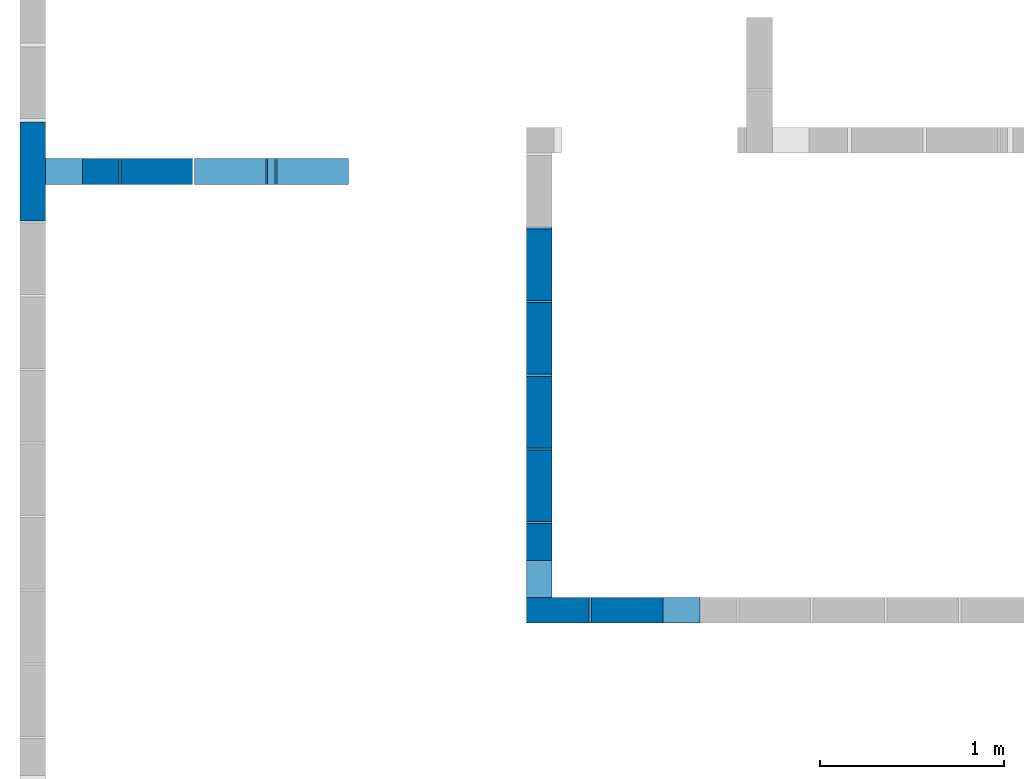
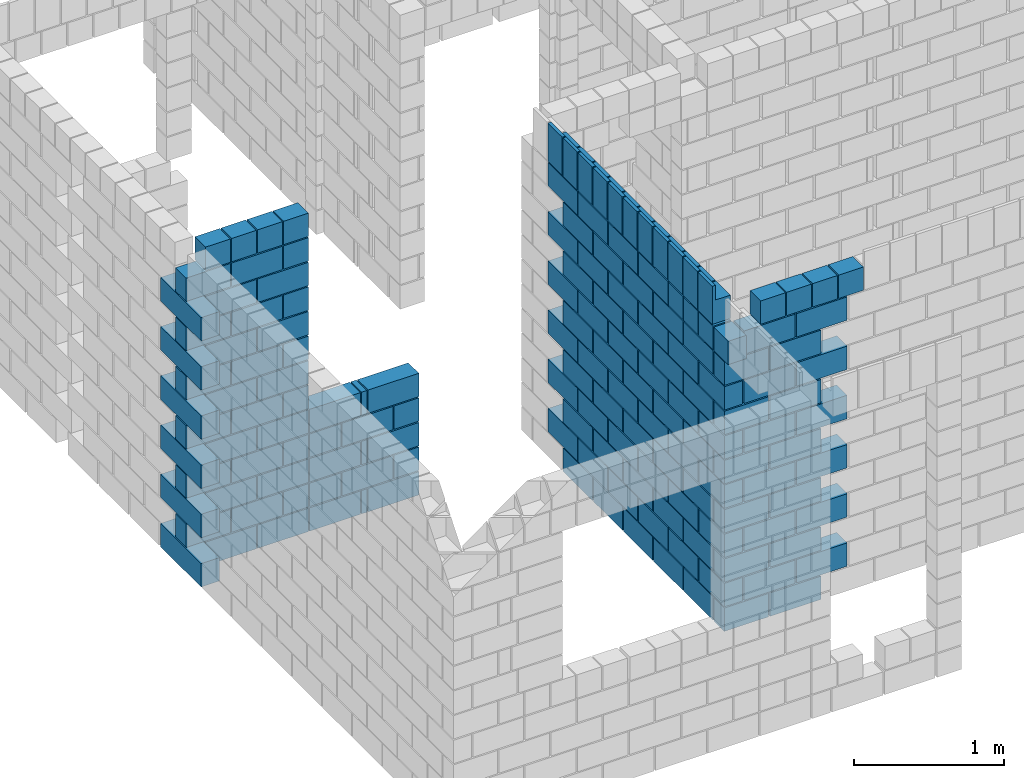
# One storey, part 3 of 12: 8 walls.
"""IFC4 building model written with IfcOpenShell, lengths in centimetres."""

from ifc_helpers import new_model, si_unit, derived_unit, frame, origin, origin_with_axes, origin_2d_with_axis, place, context, project, spatial, rectangle, extrude, element, save


model = new_model("IFC4")

# Units and contexts
model_context = context("Model", 3, precision=1e-05, world=origin_with_axes(), identifier="Body")
ifc_project = project(units=[si_unit("LENGTHUNIT", "METRE", prefix="CENTI"), si_unit("VOLUMEUNIT", "CUBIC_METRE"), si_unit("AREAUNIT", "SQUARE_METRE"), si_unit("POWERUNIT", "WATT"), si_unit("LUMINOUSFLUXUNIT", "LUMEN"), si_unit("ELECTRICCURRENTUNIT", "AMPERE"), si_unit("PRESSUREUNIT", "PASCAL", prefix="KILO"), si_unit("MASSUNIT", "GRAM", prefix="KILO"), si_unit("PLANEANGLEUNIT", "RADIAN"), derived_unit("VOLUMETRICFLOWRATEUNIT", [(si_unit("LENGTHUNIT", "METRE"), 3), (si_unit("TIMEUNIT", "SECOND"), -1)])], contexts=[model_context])

# Site, building, storey
site_placement = place(None, origin_with_axes())
site = spatial("IfcSite", under=ifc_project, at=site_placement)
building_placement = place(site_placement, origin())
building = spatial("IfcBuilding", under=site, at=building_placement)
storey_placement = place(building_placement, origin_with_axes())
storey = spatial("IfcBuildingStorey", under=building, at=storey_placement, Name="PISO", CompositionType="ELEMENT", Elevation=0.0)

# Walls
wall_1_placement = place(storey_placement, frame((18.0, 364.01, 239.0), z_axis=(0.0, 0.0, 1.0), x_axis=(1.0, 0.0, 0.0)))
element("IfcWall", 1, at=wall_1_placement, inside=storey, context=model_context, shape_type="SolidModel", body=[
    extrude(rectangle(XDim=54.0, YDim=14.0, at=origin_2d_with_axis()), frame((-10.0, 0.0, -239.0), z_axis=(0.0, 0.0, 1.0), x_axis=(0.0, 1.0, 0.0)), (0.0, 0.0, 1.0), 19.0),
    extrude(rectangle(XDim=34.0, YDim=14.0, at=origin_2d_with_axis()), frame((0.0, 0.0, -219.0), z_axis=(0.0, 0.0, 1.0), x_axis=(1.0, 0.0, 0.0)), (0.0, 0.0, 1.0), 19.0),
    extrude(rectangle(XDim=54.0, YDim=14.0, at=origin_2d_with_axis()), frame((-10.0, 0.0, -199.0), z_axis=(0.0, 0.0, 1.0), x_axis=(0.0, 1.0, 0.0)), (0.0, 0.0, 1.0), 19.0),
    extrude(rectangle(XDim=34.0, YDim=14.0, at=origin_2d_with_axis()), frame((0.0, 0.0, -179.0), z_axis=(0.0, 0.0, 1.0), x_axis=(1.0, 0.0, 0.0)), (0.0, 0.0, 1.0), 19.0),
    extrude(rectangle(XDim=54.0, YDim=14.0, at=origin_2d_with_axis()), frame((-10.0, 0.0, -159.0), z_axis=(0.0, 0.0, 1.0), x_axis=(0.0, 1.0, 0.0)), (0.0, 0.0, 1.0), 19.0),
    extrude(rectangle(XDim=34.0, YDim=14.0, at=origin_2d_with_axis()), frame((0.0, 0.0, -139.0), z_axis=(0.0, 0.0, 1.0), x_axis=(1.0, 0.0, 0.0)), (0.0, 0.0, 1.0), 19.0),
    extrude(rectangle(XDim=54.0, YDim=14.0, at=origin_2d_with_axis()), frame((-10.0, 0.0, -119.0), z_axis=(0.0, 0.0, 1.0), x_axis=(0.0, 1.0, 0.0)), (0.0, 0.0, 1.0), 19.0),
    extrude(rectangle(XDim=34.0, YDim=14.0, at=origin_2d_with_axis()), frame((0.0, 0.0, -99.0), z_axis=(0.0, 0.0, 1.0), x_axis=(1.0, 0.0, 0.0)), (0.0, 0.0, 1.0), 19.0),
    extrude(rectangle(XDim=54.0, YDim=14.0, at=origin_2d_with_axis()), frame((-10.0, 0.0, -79.0), z_axis=(0.0, 0.0, 1.0), x_axis=(0.0, 1.0, 0.0)), (0.0, 0.0, 1.0), 19.0),
    extrude(rectangle(XDim=34.0, YDim=14.0, at=origin_2d_with_axis()), frame((0.0, 0.0, -59.0), z_axis=(0.0, 0.0, 1.0), x_axis=(1.0, 0.0, 0.0)), (0.0, 0.0, 1.0), 19.0),
    extrude(rectangle(XDim=54.0, YDim=14.0, at=origin_2d_with_axis()), frame((-10.0, 0.0, -39.0), z_axis=(0.0, 0.0, 1.0), x_axis=(0.0, 1.0, 0.0)), (0.0, 0.0, 1.0), 19.0),
    extrude(rectangle(XDim=34.0, YDim=14.0, at=origin_2d_with_axis()), frame((0.0, 0.0, -19.0), z_axis=(0.0, 0.0, 1.0), x_axis=(1.0, 0.0, 0.0)), (0.0, 0.0, 1.0), 19.0),
])
wall_2_placement = place(storey_placement, frame((75.5, 364.01, 239.0), z_axis=(0.0, 0.0, 1.0), x_axis=(1.0, 0.0, 0.0)))
element("IfcWall", 2, at=wall_2_placement, inside=storey, context=model_context, shape_type="SolidModel", body=[
    extrude(rectangle(XDim=39.0, YDim=14.0, at=origin_2d_with_axis()), frame((0.0, 0.0, -239.0), z_axis=(0.0, 0.0, 1.0), x_axis=(-1.0, 0.0, 0.0)), (0.0, 0.0, 1.0), 19.0),
    extrude(rectangle(XDim=19.0, YDim=14.0, at=origin_2d_with_axis()), frame((10.0, 0.0, -219.0), z_axis=(0.0, 0.0, 1.0), x_axis=(-1.0, 0.0, 0.0)), (0.0, 0.0, 1.0), 19.0),
    extrude(rectangle(XDim=39.0, YDim=14.0, at=origin_2d_with_axis()), frame((0.0, 0.0, -199.0), z_axis=(0.0, 0.0, 1.0), x_axis=(-1.0, 0.0, 0.0)), (0.0, 0.0, 1.0), 19.0),
    extrude(rectangle(XDim=19.0, YDim=14.0, at=origin_2d_with_axis()), frame((10.0, 0.0, -179.0), z_axis=(0.0, 0.0, 1.0), x_axis=(-1.0, 0.0, 0.0)), (0.0, 0.0, 1.0), 19.0),
    extrude(rectangle(XDim=39.0, YDim=14.0, at=origin_2d_with_axis()), frame((0.0, 0.0, -159.0), z_axis=(0.0, 0.0, 1.0), x_axis=(-1.0, 0.0, 0.0)), (0.0, 0.0, 1.0), 19.0),
    extrude(rectangle(XDim=19.0, YDim=14.0, at=origin_2d_with_axis()), frame((10.0, 0.0, -139.0), z_axis=(0.0, 0.0, 1.0), x_axis=(-1.0, 0.0, 0.0)), (0.0, 0.0, 1.0), 19.0),
    extrude(rectangle(XDim=39.0, YDim=14.0, at=origin_2d_with_axis()), frame((0.0, 0.0, -119.0), z_axis=(0.0, 0.0, 1.0), x_axis=(-1.0, 0.0, 0.0)), (0.0, 0.0, 1.0), 19.0),
    extrude(rectangle(XDim=19.0, YDim=14.0, at=origin_2d_with_axis()), frame((10.0, 0.0, -99.0), z_axis=(0.0, 0.0, 1.0), x_axis=(-1.0, 0.0, 0.0)), (0.0, 0.0, 1.0), 19.0),
    extrude(rectangle(XDim=39.0, YDim=14.0, at=origin_2d_with_axis()), frame((0.0, 0.0, -79.0), z_axis=(0.0, 0.0, 1.0), x_axis=(-1.0, 0.0, 0.0)), (0.0, 0.0, 1.0), 19.0),
    extrude(rectangle(XDim=19.0, YDim=14.0, at=origin_2d_with_axis()), frame((10.0, 0.0, -59.0), z_axis=(0.0, 0.0, 1.0), x_axis=(-1.0, 0.0, 0.0)), (0.0, 0.0, 1.0), 19.0),
    extrude(rectangle(XDim=39.0, YDim=14.0, at=origin_2d_with_axis()), frame((0.0, 0.0, -39.0), z_axis=(0.0, 0.0, 1.0), x_axis=(-1.0, 0.0, 0.0)), (0.0, 0.0, 1.0), 19.0),
    extrude(rectangle(XDim=19.0, YDim=14.0, at=origin_2d_with_axis()), frame((10.0, 0.0, -19.0), z_axis=(0.0, 0.0, 1.0), x_axis=(-1.0, 0.0, 0.0)), (0.0, 0.0, 1.0), 19.0),
])
wall_3_placement = place(storey_placement, frame((294.0, 132.5, 239.0), z_axis=(0.0, 0.0, 1.0), x_axis=(1.0, 0.0, 0.0)))
element("IfcWall", 3, at=wall_3_placement, inside=storey, context=model_context, shape_type="SolidModel", body=[
    extrude(rectangle(XDim=34.0, YDim=14.0, at=origin_2d_with_axis()), frame((0.0, -7.5, -239.0), z_axis=(0.0, 0.0, 1.0), x_axis=(1.0, 0.0, 0.0)), (0.0, 0.0, 1.0), 19.0),
    extrude(rectangle(XDim=34.0, YDim=14.0, at=origin_2d_with_axis()), frame((-10.0, 2.5, -219.0), z_axis=(0.0, 0.0, 1.0), x_axis=(0.0, 1.0, 0.0)), (0.0, 0.0, 1.0), 19.0),
    extrude(rectangle(XDim=34.0, YDim=14.0, at=origin_2d_with_axis()), frame((0.0, -7.5, -199.0), z_axis=(0.0, 0.0, 1.0), x_axis=(1.0, 0.0, 0.0)), (0.0, 0.0, 1.0), 19.0),
    extrude(rectangle(XDim=34.0, YDim=14.0, at=origin_2d_with_axis()), frame((-10.0, 2.5, -179.0), z_axis=(0.0, 0.0, 1.0), x_axis=(0.0, 1.0, 0.0)), (0.0, 0.0, 1.0), 19.0),
    extrude(rectangle(XDim=34.0, YDim=14.0, at=origin_2d_with_axis()), frame((0.0, -7.5, -159.0), z_axis=(0.0, 0.0, 1.0), x_axis=(1.0, 0.0, 0.0)), (0.0, 0.0, 1.0), 19.0),
    extrude(rectangle(XDim=34.0, YDim=14.0, at=origin_2d_with_axis()), frame((-10.0, 2.5, -139.0), z_axis=(0.0, 0.0, 1.0), x_axis=(0.0, 1.0, 0.0)), (0.0, 0.0, 1.0), 19.0),
    extrude(rectangle(XDim=34.0, YDim=14.0, at=origin_2d_with_axis()), frame((0.0, -7.5, -119.0), z_axis=(0.0, 0.0, 1.0), x_axis=(1.0, 0.0, 0.0)), (0.0, 0.0, 1.0), 19.0),
    extrude(rectangle(XDim=34.0, YDim=14.0, at=origin_2d_with_axis()), frame((-10.0, 2.5, -99.0), z_axis=(0.0, 0.0, 1.0), x_axis=(0.0, 1.0, 0.0)), (0.0, 0.0, 1.0), 19.0),
    extrude(rectangle(XDim=34.0, YDim=14.0, at=origin_2d_with_axis()), frame((0.0, -7.5, -79.0), z_axis=(0.0, 0.0, 1.0), x_axis=(1.0, 0.0, 0.0)), (0.0, 0.0, 1.0), 19.0),
    extrude(rectangle(XDim=34.0, YDim=14.0, at=origin_2d_with_axis()), frame((-10.0, 2.5, -59.0), z_axis=(0.0, 0.0, 1.0), x_axis=(0.0, 1.0, 0.0)), (0.0, 0.0, 1.0), 19.0),
    extrude(rectangle(XDim=34.0, YDim=14.0, at=origin_2d_with_axis()), frame((0.0, -7.5, -39.0), z_axis=(0.0, 0.0, 1.0), x_axis=(1.0, 0.0, 0.0)), (0.0, 0.0, 1.0), 19.0),
    extrude(rectangle(XDim=19.0, YDim=14.0, at=origin_2d_with_axis()), frame((-10.0, -10.0, -19.0), z_axis=(0.0, 0.0, 1.0), x_axis=(0.0, -1.0, 0.0)), (0.0, 0.0, 1.0), 19.0),
])
wall_4_placement = place(storey_placement, frame((160.5, 364.01, 99.0), z_axis=(0.0, 0.0, 1.0), x_axis=(1.0, 0.0, 0.0)))
element("IfcWall", 4, at=wall_4_placement, inside=storey, context=model_context, shape_type="SolidModel", body=[
    extrude(rectangle(XDim=39.0, YDim=14.0, at=origin_2d_with_axis()), frame((0.0, 0.0, -99.0), z_axis=(0.0, 0.0, 1.0), x_axis=(-1.0, 0.0, 0.0)), (0.0, 0.0, 1.0), 19.0),
    extrude(rectangle(XDim=19.0, YDim=14.0, at=origin_2d_with_axis()), frame((10.0, 0.0, -79.0), z_axis=(0.0, 0.0, 1.0), x_axis=(-1.0, 0.0, 0.0)), (0.0, 0.0, 1.0), 19.0),
    extrude(rectangle(XDim=39.0, YDim=14.0, at=origin_2d_with_axis()), frame((0.0, 0.0, -59.0), z_axis=(0.0, 0.0, 1.0), x_axis=(-1.0, 0.0, 0.0)), (0.0, 0.0, 1.0), 19.0),
    extrude(rectangle(XDim=19.0, YDim=14.0, at=origin_2d_with_axis()), frame((10.0, 0.0, -39.0), z_axis=(0.0, 0.0, 1.0), x_axis=(-1.0, 0.0, 0.0)), (0.0, 0.0, 1.0), 19.0),
    extrude(rectangle(XDim=39.0, YDim=14.0, at=origin_2d_with_axis()), frame((0.0, 0.0, -19.0), z_axis=(0.0, 0.0, 1.0), x_axis=(-1.0, 0.0, 0.0)), (0.0, 0.0, 1.0), 19.0),
])
wall_5_placement = place(storey_placement, frame((284.0, 243.07714285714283, 271.0), z_axis=(0.0, 0.0, 1.0), x_axis=(1.0, 0.0, 0.0)))
element("IfcWall", 5, at=wall_5_placement, inside=storey, Name="PAR-PISO-12", context=model_context, shape_type="SolidModel", body=[
    extrude(rectangle(XDim=39.0, YDim=14.0, at=origin_2d_with_axis()), frame((0.0, 70.1442857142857, -271.0), z_axis=(0.0, 0.0, 1.0), x_axis=(0.0, -1.0, 0.0)), (0.0, 0.0, 1.0), 19.0),
    extrude(rectangle(XDim=39.0, YDim=14.0, at=origin_2d_with_axis()), frame((0.0, 30.0, -271.0), z_axis=(0.0, 0.0, 1.0), x_axis=(0.0, -1.0, 0.0)), (0.0, 0.0, 1.0), 19.0),
    extrude(rectangle(XDim=39.0, YDim=14.0, at=origin_2d_with_axis()), frame((0.0, -10.1442857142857, -271.0), z_axis=(0.0, 0.0, 1.0), x_axis=(0.0, -1.0, 0.0)), (0.0, 0.0, 1.0), 19.0),
    extrude(rectangle(XDim=39.0, YDim=14.0, at=origin_2d_with_axis()), frame((0.0, -50.28857142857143, -271.0), z_axis=(0.0, 0.0, 1.0), x_axis=(0.0, -1.0, 0.0)), (0.0, 0.0, 1.0), 19.0),
    extrude(rectangle(XDim=39.0, YDim=14.0, at=origin_2d_with_axis()), frame((0.0, -90.43285714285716, -271.0), z_axis=(0.0, 0.0, 1.0), x_axis=(0.0, -1.0, 0.0)), (0.0, 0.0, 1.0), 19.0),
    extrude(rectangle(XDim=39.0, YDim=14.0, at=origin_2d_with_axis()), frame((0.0, 90.26452380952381, -251.0), z_axis=(0.0, 0.0, 1.0), x_axis=(0.0, -1.0, 0.0)), (0.0, 0.0, 1.0), 19.0),
    extrude(rectangle(XDim=39.0, YDim=14.0, at=origin_2d_with_axis()), frame((0.0, 50.096190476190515, -251.0), z_axis=(0.0, 0.0, 1.0), x_axis=(0.0, -1.0, 0.0)), (0.0, 0.0, 1.0), 19.0),
    extrude(rectangle(XDim=39.0, YDim=14.0, at=origin_2d_with_axis()), frame((0.0, 9.927857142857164, -251.0), z_axis=(0.0, 0.0, 1.0), x_axis=(0.0, -1.0, 0.0)), (0.0, 0.0, 1.0), 19.0),
    extrude(rectangle(XDim=39.0, YDim=14.0, at=origin_2d_with_axis()), frame((0.0, -30.24047619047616, -251.0), z_axis=(0.0, 0.0, 1.0), x_axis=(0.0, -1.0, 0.0)), (0.0, 0.0, 1.0), 19.0),
    extrude(rectangle(XDim=39.0, YDim=14.0, at=origin_2d_with_axis()), frame((0.0, -70.40880952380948, -251.0), z_axis=(0.0, 0.0, 1.0), x_axis=(0.0, -1.0, 0.0)), (0.0, 0.0, 1.0), 19.0),
    extrude(rectangle(XDim=39.0, YDim=14.0, at=origin_2d_with_axis()), frame((0.0, 70.1442857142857, -231.0), z_axis=(0.0, 0.0, 1.0), x_axis=(0.0, -1.0, 0.0)), (0.0, 0.0, 1.0), 19.0),
    extrude(rectangle(XDim=39.0, YDim=14.0, at=origin_2d_with_axis()), frame((0.0, 30.0, -231.0), z_axis=(0.0, 0.0, 1.0), x_axis=(0.0, -1.0, 0.0)), (0.0, 0.0, 1.0), 19.0),
    extrude(rectangle(XDim=39.0, YDim=14.0, at=origin_2d_with_axis()), frame((0.0, -10.1442857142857, -231.0), z_axis=(0.0, 0.0, 1.0), x_axis=(0.0, -1.0, 0.0)), (0.0, 0.0, 1.0), 19.0),
    extrude(rectangle(XDim=39.0, YDim=14.0, at=origin_2d_with_axis()), frame((0.0, -50.28857142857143, -231.0), z_axis=(0.0, 0.0, 1.0), x_axis=(0.0, -1.0, 0.0)), (0.0, 0.0, 1.0), 19.0),
    extrude(rectangle(XDim=39.0, YDim=14.0, at=origin_2d_with_axis()), frame((0.0, -90.43285714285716, -231.0), z_axis=(0.0, 0.0, 1.0), x_axis=(0.0, -1.0, 0.0)), (0.0, 0.0, 1.0), 19.0),
    extrude(rectangle(XDim=39.0, YDim=14.0, at=origin_2d_with_axis()), frame((0.0, 90.26452380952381, -211.0), z_axis=(0.0, 0.0, 1.0), x_axis=(0.0, -1.0, 0.0)), (0.0, 0.0, 1.0), 19.0),
    extrude(rectangle(XDim=39.0, YDim=14.0, at=origin_2d_with_axis()), frame((0.0, 50.096190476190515, -211.0), z_axis=(0.0, 0.0, 1.0), x_axis=(0.0, -1.0, 0.0)), (0.0, 0.0, 1.0), 19.0),
    extrude(rectangle(XDim=39.0, YDim=14.0, at=origin_2d_with_axis()), frame((0.0, 9.927857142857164, -211.0), z_axis=(0.0, 0.0, 1.0), x_axis=(0.0, -1.0, 0.0)), (0.0, 0.0, 1.0), 19.0),
    extrude(rectangle(XDim=39.0, YDim=14.0, at=origin_2d_with_axis()), frame((0.0, -30.24047619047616, -211.0), z_axis=(0.0, 0.0, 1.0), x_axis=(0.0, -1.0, 0.0)), (0.0, 0.0, 1.0), 19.0),
    extrude(rectangle(XDim=39.0, YDim=14.0, at=origin_2d_with_axis()), frame((0.0, -70.40880952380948, -211.0), z_axis=(0.0, 0.0, 1.0), x_axis=(0.0, -1.0, 0.0)), (0.0, 0.0, 1.0), 19.0),
    extrude(rectangle(XDim=39.0, YDim=14.0, at=origin_2d_with_axis()), frame((0.0, 70.1442857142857, -191.0), z_axis=(0.0, 0.0, 1.0), x_axis=(0.0, -1.0, 0.0)), (0.0, 0.0, 1.0), 19.0),
    extrude(rectangle(XDim=39.0, YDim=14.0, at=origin_2d_with_axis()), frame((0.0, 30.0, -191.0), z_axis=(0.0, 0.0, 1.0), x_axis=(0.0, -1.0, 0.0)), (0.0, 0.0, 1.0), 19.0),
    extrude(rectangle(XDim=39.0, YDim=14.0, at=origin_2d_with_axis()), frame((0.0, -10.1442857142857, -191.0), z_axis=(0.0, 0.0, 1.0), x_axis=(0.0, -1.0, 0.0)), (0.0, 0.0, 1.0), 19.0),
    extrude(rectangle(XDim=39.0, YDim=14.0, at=origin_2d_with_axis()), frame((0.0, -50.28857142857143, -191.0), z_axis=(0.0, 0.0, 1.0), x_axis=(0.0, -1.0, 0.0)), (0.0, 0.0, 1.0), 19.0),
    extrude(rectangle(XDim=39.0, YDim=14.0, at=origin_2d_with_axis()), frame((0.0, -90.43285714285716, -191.0), z_axis=(0.0, 0.0, 1.0), x_axis=(0.0, -1.0, 0.0)), (0.0, 0.0, 1.0), 19.0),
    extrude(rectangle(XDim=39.0, YDim=14.0, at=origin_2d_with_axis()), frame((0.0, 90.26452380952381, -171.0), z_axis=(0.0, 0.0, 1.0), x_axis=(0.0, -1.0, 0.0)), (0.0, 0.0, 1.0), 19.0),
    extrude(rectangle(XDim=39.0, YDim=14.0, at=origin_2d_with_axis()), frame((0.0, 50.096190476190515, -171.0), z_axis=(0.0, 0.0, 1.0), x_axis=(0.0, -1.0, 0.0)), (0.0, 0.0, 1.0), 19.0),
    extrude(rectangle(XDim=39.0, YDim=14.0, at=origin_2d_with_axis()), frame((0.0, 9.927857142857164, -171.0), z_axis=(0.0, 0.0, 1.0), x_axis=(0.0, -1.0, 0.0)), (0.0, 0.0, 1.0), 19.0),
    extrude(rectangle(XDim=39.0, YDim=14.0, at=origin_2d_with_axis()), frame((0.0, -30.24047619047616, -171.0), z_axis=(0.0, 0.0, 1.0), x_axis=(0.0, -1.0, 0.0)), (0.0, 0.0, 1.0), 19.0),
    extrude(rectangle(XDim=39.0, YDim=14.0, at=origin_2d_with_axis()), frame((0.0, -70.40880952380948, -171.0), z_axis=(0.0, 0.0, 1.0), x_axis=(0.0, -1.0, 0.0)), (0.0, 0.0, 1.0), 19.0),
    extrude(rectangle(XDim=39.0, YDim=14.0, at=origin_2d_with_axis()), frame((0.0, 70.1442857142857, -151.0), z_axis=(0.0, 0.0, 1.0), x_axis=(0.0, -1.0, 0.0)), (0.0, 0.0, 1.0), 19.0),
    extrude(rectangle(XDim=39.0, YDim=14.0, at=origin_2d_with_axis()), frame((0.0, 30.0, -151.0), z_axis=(0.0, 0.0, 1.0), x_axis=(0.0, -1.0, 0.0)), (0.0, 0.0, 1.0), 19.0),
    extrude(rectangle(XDim=39.0, YDim=14.0, at=origin_2d_with_axis()), frame((0.0, -10.1442857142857, -151.0), z_axis=(0.0, 0.0, 1.0), x_axis=(0.0, -1.0, 0.0)), (0.0, 0.0, 1.0), 19.0),
    extrude(rectangle(XDim=39.0, YDim=14.0, at=origin_2d_with_axis()), frame((0.0, -50.28857142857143, -151.0), z_axis=(0.0, 0.0, 1.0), x_axis=(0.0, -1.0, 0.0)), (0.0, 0.0, 1.0), 19.0),
    extrude(rectangle(XDim=39.0, YDim=14.0, at=origin_2d_with_axis()), frame((0.0, -90.43285714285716, -151.0), z_axis=(0.0, 0.0, 1.0), x_axis=(0.0, -1.0, 0.0)), (0.0, 0.0, 1.0), 19.0),
    extrude(rectangle(XDim=39.0, YDim=14.0, at=origin_2d_with_axis()), frame((0.0, 90.26452380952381, -131.0), z_axis=(0.0, 0.0, 1.0), x_axis=(0.0, -1.0, 0.0)), (0.0, 0.0, 1.0), 19.0),
    extrude(rectangle(XDim=39.0, YDim=14.0, at=origin_2d_with_axis()), frame((0.0, 50.096190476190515, -131.0), z_axis=(0.0, 0.0, 1.0), x_axis=(0.0, -1.0, 0.0)), (0.0, 0.0, 1.0), 19.0),
    extrude(rectangle(XDim=39.0, YDim=14.0, at=origin_2d_with_axis()), frame((0.0, 9.927857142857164, -131.0), z_axis=(0.0, 0.0, 1.0), x_axis=(0.0, -1.0, 0.0)), (0.0, 0.0, 1.0), 19.0),
    extrude(rectangle(XDim=39.0, YDim=14.0, at=origin_2d_with_axis()), frame((0.0, -30.24047619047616, -131.0), z_axis=(0.0, 0.0, 1.0), x_axis=(0.0, -1.0, 0.0)), (0.0, 0.0, 1.0), 19.0),
    extrude(rectangle(XDim=39.0, YDim=14.0, at=origin_2d_with_axis()), frame((0.0, -70.40880952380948, -131.0), z_axis=(0.0, 0.0, 1.0), x_axis=(0.0, -1.0, 0.0)), (0.0, 0.0, 1.0), 19.0),
    extrude(rectangle(XDim=39.0, YDim=14.0, at=origin_2d_with_axis()), frame((0.0, 70.1442857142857, -111.0), z_axis=(0.0, 0.0, 1.0), x_axis=(0.0, -1.0, 0.0)), (0.0, 0.0, 1.0), 19.0),
    extrude(rectangle(XDim=39.0, YDim=14.0, at=origin_2d_with_axis()), frame((0.0, 30.0, -111.0), z_axis=(0.0, 0.0, 1.0), x_axis=(0.0, -1.0, 0.0)), (0.0, 0.0, 1.0), 19.0),
    extrude(rectangle(XDim=39.0, YDim=14.0, at=origin_2d_with_axis()), frame((0.0, -10.1442857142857, -111.0), z_axis=(0.0, 0.0, 1.0), x_axis=(0.0, -1.0, 0.0)), (0.0, 0.0, 1.0), 19.0),
    extrude(rectangle(XDim=39.0, YDim=14.0, at=origin_2d_with_axis()), frame((0.0, -50.28857142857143, -111.0), z_axis=(0.0, 0.0, 1.0), x_axis=(0.0, -1.0, 0.0)), (0.0, 0.0, 1.0), 19.0),
    extrude(rectangle(XDim=39.0, YDim=14.0, at=origin_2d_with_axis()), frame((0.0, -90.43285714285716, -111.0), z_axis=(0.0, 0.0, 1.0), x_axis=(0.0, -1.0, 0.0)), (0.0, 0.0, 1.0), 19.0),
    extrude(rectangle(XDim=39.0, YDim=14.0, at=origin_2d_with_axis()), frame((0.0, 90.26452380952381, -91.0), z_axis=(0.0, 0.0, 1.0), x_axis=(0.0, -1.0, 0.0)), (0.0, 0.0, 1.0), 19.0),
    extrude(rectangle(XDim=39.0, YDim=14.0, at=origin_2d_with_axis()), frame((0.0, 50.096190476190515, -91.0), z_axis=(0.0, 0.0, 1.0), x_axis=(0.0, -1.0, 0.0)), (0.0, 0.0, 1.0), 19.0),
    extrude(rectangle(XDim=39.0, YDim=14.0, at=origin_2d_with_axis()), frame((0.0, 9.927857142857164, -91.0), z_axis=(0.0, 0.0, 1.0), x_axis=(0.0, -1.0, 0.0)), (0.0, 0.0, 1.0), 19.0),
    extrude(rectangle(XDim=39.0, YDim=14.0, at=origin_2d_with_axis()), frame((0.0, -30.24047619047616, -91.0), z_axis=(0.0, 0.0, 1.0), x_axis=(0.0, -1.0, 0.0)), (0.0, 0.0, 1.0), 19.0),
    extrude(rectangle(XDim=39.0, YDim=14.0, at=origin_2d_with_axis()), frame((0.0, -70.40880952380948, -91.0), z_axis=(0.0, 0.0, 1.0), x_axis=(0.0, -1.0, 0.0)), (0.0, 0.0, 1.0), 19.0),
    extrude(rectangle(XDim=39.0, YDim=14.0, at=origin_2d_with_axis()), frame((0.0, 70.1442857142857, -71.0), z_axis=(0.0, 0.0, 1.0), x_axis=(0.0, -1.0, 0.0)), (0.0, 0.0, 1.0), 19.0),
    extrude(rectangle(XDim=39.0, YDim=14.0, at=origin_2d_with_axis()), frame((0.0, 30.0, -71.0), z_axis=(0.0, 0.0, 1.0), x_axis=(0.0, -1.0, 0.0)), (0.0, 0.0, 1.0), 19.0),
    extrude(rectangle(XDim=39.0, YDim=14.0, at=origin_2d_with_axis()), frame((0.0, -10.1442857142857, -71.0), z_axis=(0.0, 0.0, 1.0), x_axis=(0.0, -1.0, 0.0)), (0.0, 0.0, 1.0), 19.0),
    extrude(rectangle(XDim=39.0, YDim=14.0, at=origin_2d_with_axis()), frame((0.0, -50.28857142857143, -71.0), z_axis=(0.0, 0.0, 1.0), x_axis=(0.0, -1.0, 0.0)), (0.0, 0.0, 1.0), 19.0),
    extrude(rectangle(XDim=39.0, YDim=14.0, at=origin_2d_with_axis()), frame((0.0, -90.43285714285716, -71.0), z_axis=(0.0, 0.0, 1.0), x_axis=(0.0, -1.0, 0.0)), (0.0, 0.0, 1.0), 19.0),
    extrude(rectangle(XDim=39.0, YDim=14.0, at=origin_2d_with_axis()), frame((0.0, 90.26452380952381, -51.0), z_axis=(0.0, 0.0, 1.0), x_axis=(0.0, -1.0, 0.0)), (0.0, 0.0, 1.0), 19.0),
    extrude(rectangle(XDim=39.0, YDim=14.0, at=origin_2d_with_axis()), frame((0.0, 50.096190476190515, -51.0), z_axis=(0.0, 0.0, 1.0), x_axis=(0.0, -1.0, 0.0)), (0.0, 0.0, 1.0), 19.0),
    extrude(rectangle(XDim=39.0, YDim=14.0, at=origin_2d_with_axis()), frame((0.0, 9.927857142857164, -51.0), z_axis=(0.0, 0.0, 1.0), x_axis=(0.0, -1.0, 0.0)), (0.0, 0.0, 1.0), 19.0),
    extrude(rectangle(XDim=39.0, YDim=14.0, at=origin_2d_with_axis()), frame((0.0, -30.24047619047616, -51.0), z_axis=(0.0, 0.0, 1.0), x_axis=(0.0, -1.0, 0.0)), (0.0, 0.0, 1.0), 19.0),
    extrude(rectangle(XDim=19.0, YDim=14.0, at=origin_2d_with_axis()), frame((0.0, -60.40880952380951, -51.0), z_axis=(0.0, 0.0, 1.0), x_axis=(0.0, -1.0, 0.0)), (0.0, 0.0, 1.0), 19.0),
    extrude(rectangle(XDim=19.0, YDim=14.0, at=origin_2d_with_axis()), frame((0.0, -80.40880952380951, -51.0), z_axis=(0.0, 0.0, 1.0), x_axis=(0.0, -1.0, 0.0)), (0.0, 0.0, 1.0), 19.0),
    extrude(rectangle(XDim=19.0, YDim=14.0, at=origin_2d_with_axis()), frame((0.0, -100.40880952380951, -51.0), z_axis=(0.0, 0.0, 1.0), x_axis=(0.0, -1.0, 0.0)), (0.0, 0.0, 1.0), 19.0),
    extrude(rectangle(XDim=19.0, YDim=2.5, at=origin_2d_with_axis()), frame((-5.75, 100.43285714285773, -12.0), z_axis=(0.0, 0.0, 1.0), x_axis=(0.0, -1.0, 0.0)), (0.0, 0.0, 1.0), 12.0),
    extrude(rectangle(XDim=19.0, YDim=14.0, at=origin_2d_with_axis()), frame((0.0, 100.43285714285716, -31.0), z_axis=(0.0, 0.0, 1.0), x_axis=(0.0, -1.0, 0.0)), (0.0, 0.0, 1.0), 19.0),
    extrude(rectangle(XDim=19.0, YDim=2.5, at=origin_2d_with_axis()), frame((-5.75, 80.43285714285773, -12.0), z_axis=(0.0, 0.0, 1.0), x_axis=(0.0, -1.0, 0.0)), (0.0, 0.0, 1.0), 12.0),
    extrude(rectangle(XDim=19.0, YDim=14.0, at=origin_2d_with_axis()), frame((0.0, 80.43285714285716, -31.0), z_axis=(0.0, 0.0, 1.0), x_axis=(0.0, -1.0, 0.0)), (0.0, 0.0, 1.0), 19.0),
    extrude(rectangle(XDim=19.0, YDim=2.5, at=origin_2d_with_axis()), frame((-5.75, 60.43285714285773, -12.0), z_axis=(0.0, 0.0, 1.0), x_axis=(0.0, -1.0, 0.0)), (0.0, 0.0, 1.0), 12.0),
    extrude(rectangle(XDim=19.0, YDim=14.0, at=origin_2d_with_axis()), frame((0.0, 60.43285714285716, -31.0), z_axis=(0.0, 0.0, 1.0), x_axis=(0.0, -1.0, 0.0)), (0.0, 0.0, 1.0), 19.0),
    extrude(rectangle(XDim=19.0, YDim=2.5, at=origin_2d_with_axis()), frame((-5.75, 40.43285714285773, -12.0), z_axis=(0.0, 0.0, 1.0), x_axis=(0.0, -1.0, 0.0)), (0.0, 0.0, 1.0), 12.0),
    extrude(rectangle(XDim=19.0, YDim=14.0, at=origin_2d_with_axis()), frame((0.0, 40.43285714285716, -31.0), z_axis=(0.0, 0.0, 1.0), x_axis=(0.0, -1.0, 0.0)), (0.0, 0.0, 1.0), 19.0),
    extrude(rectangle(XDim=19.0, YDim=2.5, at=origin_2d_with_axis()), frame((-5.75, 20.432857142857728, -12.0), z_axis=(0.0, 0.0, 1.0), x_axis=(0.0, -1.0, 0.0)), (0.0, 0.0, 1.0), 12.0),
    extrude(rectangle(XDim=19.0, YDim=14.0, at=origin_2d_with_axis()), frame((0.0, 20.43285714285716, -31.0), z_axis=(0.0, 0.0, 1.0), x_axis=(0.0, -1.0, 0.0)), (0.0, 0.0, 1.0), 19.0),
    extrude(rectangle(XDim=19.0, YDim=2.5, at=origin_2d_with_axis()), frame((-5.75, 0.432857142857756, -12.0), z_axis=(0.0, 0.0, 1.0), x_axis=(0.0, -1.0, 0.0)), (0.0, 0.0, 1.0), 12.0),
    extrude(rectangle(XDim=19.0, YDim=14.0, at=origin_2d_with_axis()), frame((0.0, 0.432857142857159, -31.0), z_axis=(0.0, 0.0, 1.0), x_axis=(0.0, -1.0, 0.0)), (0.0, 0.0, 1.0), 19.0),
    extrude(rectangle(XDim=19.0, YDim=2.5, at=origin_2d_with_axis()), frame((-5.75, -19.567142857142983, -12.0), z_axis=(0.0, 0.0, 1.0), x_axis=(0.0, -1.0, 0.0)), (0.0, 0.0, 1.0), 12.0),
    extrude(rectangle(XDim=19.0, YDim=14.0, at=origin_2d_with_axis()), frame((0.0, -19.56714285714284, -31.0), z_axis=(0.0, 0.0, 1.0), x_axis=(0.0, -1.0, 0.0)), (0.0, 0.0, 1.0), 19.0),
    extrude(rectangle(XDim=19.0, YDim=2.5, at=origin_2d_with_axis()), frame((-5.75, -39.56714285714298, -12.0), z_axis=(0.0, 0.0, 1.0), x_axis=(0.0, -1.0, 0.0)), (0.0, 0.0, 1.0), 12.0),
    extrude(rectangle(XDim=19.0, YDim=14.0, at=origin_2d_with_axis()), frame((0.0, -39.56714285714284, -31.0), z_axis=(0.0, 0.0, 1.0), x_axis=(0.0, -1.0, 0.0)), (0.0, 0.0, 1.0), 19.0),
    extrude(rectangle(XDim=19.0, YDim=2.5, at=origin_2d_with_axis()), frame((-5.75, -59.56714285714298, -12.0), z_axis=(0.0, 0.0, 1.0), x_axis=(0.0, -1.0, 0.0)), (0.0, 0.0, 1.0), 12.0),
    extrude(rectangle(XDim=19.0, YDim=14.0, at=origin_2d_with_axis()), frame((0.0, -59.56714285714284, -31.0), z_axis=(0.0, 0.0, 1.0), x_axis=(0.0, -1.0, 0.0)), (0.0, 0.0, 1.0), 19.0),
    extrude(rectangle(XDim=19.0, YDim=2.5, at=origin_2d_with_axis()), frame((-5.75, -79.56714285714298, -12.0), z_axis=(0.0, 0.0, 1.0), x_axis=(0.0, -1.0, 0.0)), (0.0, 0.0, 1.0), 12.0),
    extrude(rectangle(XDim=19.0, YDim=14.0, at=origin_2d_with_axis()), frame((0.0, -79.56714285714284, -31.0), z_axis=(0.0, 0.0, 1.0), x_axis=(0.0, -1.0, 0.0)), (0.0, 0.0, 1.0), 19.0),
    extrude(rectangle(XDim=19.0, YDim=2.5, at=origin_2d_with_axis()), frame((-5.75, -99.56714285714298, -12.0), z_axis=(0.0, 0.0, 1.0), x_axis=(0.0, -1.0, 0.0)), (0.0, 0.0, 1.0), 12.0),
    extrude(rectangle(XDim=19.0, YDim=14.0, at=origin_2d_with_axis()), frame((0.0, -99.56714285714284, -31.0), z_axis=(0.0, 0.0, 1.0), x_axis=(0.0, -1.0, 0.0)), (0.0, 0.0, 1.0), 19.0),
])
wall_6_placement = place(storey_placement, frame((55.5, 364.01, 259.0), z_axis=(0.0, 0.0, 1.0), x_axis=(1.0, 0.0, 0.0)))
element("IfcWall", 6, at=wall_6_placement, inside=storey, Name="PAR-PISO-7", context=model_context, shape_type="SolidModel", body=[
    extrude(rectangle(XDim=39.0, YDim=14.0, at=origin_2d_with_axis()), frame((-20.0, 0.0, -259.0), z_axis=(0.0, 0.0, 1.0), x_axis=(1.0, 0.0, 0.0)), (0.0, 0.0, 1.0), 19.0),
    extrude(rectangle(XDim=39.0, YDim=14.0, at=origin_2d_with_axis()), frame((0.0, 0.0, -239.0), z_axis=(0.0, 0.0, 1.0), x_axis=(1.0, 0.0, 0.0)), (0.0, 0.0, 1.0), 19.0),
    extrude(rectangle(XDim=39.0, YDim=14.0, at=origin_2d_with_axis()), frame((-20.0, 0.0, -219.0), z_axis=(0.0, 0.0, 1.0), x_axis=(1.0, 0.0, 0.0)), (0.0, 0.0, 1.0), 19.0),
    extrude(rectangle(XDim=39.0, YDim=14.0, at=origin_2d_with_axis()), frame((0.0, 0.0, -199.0), z_axis=(0.0, 0.0, 1.0), x_axis=(1.0, 0.0, 0.0)), (0.0, 0.0, 1.0), 19.0),
    extrude(rectangle(XDim=39.0, YDim=14.0, at=origin_2d_with_axis()), frame((-20.0, 0.0, -179.0), z_axis=(0.0, 0.0, 1.0), x_axis=(1.0, 0.0, 0.0)), (0.0, 0.0, 1.0), 19.0),
    extrude(rectangle(XDim=39.0, YDim=14.0, at=origin_2d_with_axis()), frame((0.0, 0.0, -159.0), z_axis=(0.0, 0.0, 1.0), x_axis=(1.0, 0.0, 0.0)), (0.0, 0.0, 1.0), 19.0),
    extrude(rectangle(XDim=39.0, YDim=14.0, at=origin_2d_with_axis()), frame((-20.0, 0.0, -139.0), z_axis=(0.0, 0.0, 1.0), x_axis=(1.0, 0.0, 0.0)), (0.0, 0.0, 1.0), 19.0),
    extrude(rectangle(XDim=39.0, YDim=14.0, at=origin_2d_with_axis()), frame((0.0, 0.0, -119.0), z_axis=(0.0, 0.0, 1.0), x_axis=(1.0, 0.0, 0.0)), (0.0, 0.0, 1.0), 19.0),
    extrude(rectangle(XDim=39.0, YDim=14.0, at=origin_2d_with_axis()), frame((-20.0, 0.0, -99.0), z_axis=(0.0, 0.0, 1.0), x_axis=(1.0, 0.0, 0.0)), (0.0, 0.0, 1.0), 19.0),
    extrude(rectangle(XDim=39.0, YDim=14.0, at=origin_2d_with_axis()), frame((0.0, 0.0, -79.0), z_axis=(0.0, 0.0, 1.0), x_axis=(1.0, 0.0, 0.0)), (0.0, 0.0, 1.0), 19.0),
    extrude(rectangle(XDim=39.0, YDim=14.0, at=origin_2d_with_axis()), frame((-20.0, 0.0, -59.0), z_axis=(0.0, 0.0, 1.0), x_axis=(1.0, 0.0, 0.0)), (0.0, 0.0, 1.0), 19.0),
    extrude(rectangle(XDim=39.0, YDim=14.0, at=origin_2d_with_axis()), frame((0.0, 0.0, -39.0), z_axis=(0.0, 0.0, 1.0), x_axis=(1.0, 0.0, 0.0)), (0.0, 0.0, 1.0), 19.0),
    extrude(rectangle(XDim=19.0, YDim=14.0, at=origin_2d_with_axis()), frame((-30.0, 0.0, -19.0), z_axis=(0.0, 0.0, 1.0), x_axis=(1.0, 0.0, 0.0)), (0.0, 0.0, 1.0), 19.0),
    extrude(rectangle(XDim=19.0, YDim=14.0, at=origin_2d_with_axis()), frame((-10.0, 0.0, -19.0), z_axis=(0.0, 0.0, 1.0), x_axis=(1.0, 0.0, 0.0)), (0.0, 0.0, 1.0), 19.0),
    extrude(rectangle(XDim=19.0, YDim=14.0, at=origin_2d_with_axis()), frame((10.0, 0.0, -19.0), z_axis=(0.0, 0.0, 1.0), x_axis=(1.0, 0.0, 0.0)), (0.0, 0.0, 1.0), 19.0),
    extrude(rectangle(XDim=19.0, YDim=14.0, at=origin_2d_with_axis()), frame((30.0, 0.0, -19.0), z_axis=(0.0, 0.0, 1.0), x_axis=(1.0, 0.0, 0.0)), (0.0, 0.0, 1.0), 19.0),
])
wall_7_placement = place(storey_placement, frame((128.0, 364.01, 99.0), z_axis=(0.0, 0.0, 1.0), x_axis=(1.0, 0.0, 0.0)))
element("IfcWall", 7, at=wall_7_placement, inside=storey, Name="PAR-PISO-8", context=model_context, shape_type="SolidModel", body=[
    extrude(rectangle(XDim=39.0, YDim=14.0, at=origin_2d_with_axis()), frame((-12.5, 0.0, -99.0), z_axis=(0.0, 0.0, 1.0), x_axis=(1.0, 0.0, 0.0)), (0.0, 0.0, 1.0), 19.0),
    extrude(rectangle(XDim=4.0, YDim=14.0, at=origin_2d_with_axis()), frame((10.0, 0.0, -99.0), z_axis=(0.0, 0.0, 1.0), x_axis=(1.0, 0.0, 0.0)), (0.0, 0.0, 1.0), 19.0),
    extrude(rectangle(XDim=24.0, YDim=14.0, at=origin_2d_with_axis()), frame((-20.0, 0.0, -79.0), z_axis=(0.0, 0.0, 1.0), x_axis=(1.0, 0.0, 0.0)), (0.0, 0.0, 1.0), 19.0),
    extrude(rectangle(XDim=39.0, YDim=14.0, at=origin_2d_with_axis()), frame((12.5, 0.0, -79.0), z_axis=(0.0, 0.0, 1.0), x_axis=(1.0, 0.0, 0.0)), (0.0, 0.0, 1.0), 19.0),
    extrude(rectangle(XDim=39.0, YDim=14.0, at=origin_2d_with_axis()), frame((-12.5, 0.0, -59.0), z_axis=(0.0, 0.0, 1.0), x_axis=(1.0, 0.0, 0.0)), (0.0, 0.0, 1.0), 19.0),
    extrude(rectangle(XDim=4.0, YDim=14.0, at=origin_2d_with_axis()), frame((10.0, 0.0, -59.0), z_axis=(0.0, 0.0, 1.0), x_axis=(1.0, 0.0, 0.0)), (0.0, 0.0, 1.0), 19.0),
    extrude(rectangle(XDim=24.0, YDim=14.0, at=origin_2d_with_axis()), frame((-20.0, 0.0, -39.0), z_axis=(0.0, 0.0, 1.0), x_axis=(1.0, 0.0, 0.0)), (0.0, 0.0, 1.0), 19.0),
    extrude(rectangle(XDim=39.0, YDim=14.0, at=origin_2d_with_axis()), frame((12.5, 0.0, -39.0), z_axis=(0.0, 0.0, 1.0), x_axis=(1.0, 0.0, 0.0)), (0.0, 0.0, 1.0), 19.0),
    extrude(rectangle(XDim=39.0, YDim=14.0, at=origin_2d_with_axis()), frame((-12.5, 0.0, -19.0), z_axis=(0.0, 0.0, 1.0), x_axis=(1.0, 0.0, 0.0)), (0.0, 0.0, 1.0), 19.0),
    extrude(rectangle(XDim=4.0, YDim=14.0, at=origin_2d_with_axis()), frame((10.0, 0.0, -19.0), z_axis=(0.0, 0.0, 1.0), x_axis=(1.0, 0.0, 0.0)), (0.0, 0.0, 1.0), 19.0),
])
wall_8_placement = place(storey_placement, frame((338.14181818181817, 125.0, 259.0), z_axis=(0.0, 0.0, 1.0), x_axis=(1.0, 0.0, 0.0)))
element("IfcWall", 8, at=wall_8_placement, inside=storey, Name="PAR-PISO-9", context=model_context, shape_type="SolidModel", body=[
    extrude(rectangle(XDim=39.0, YDim=14.0, at=origin_2d_with_axis()), frame((-6.340818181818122, 0.0, -259.0), z_axis=(0.0, 0.0, 1.0), x_axis=(-1.0, 0.0, 0.0)), (0.0, 0.0, 1.0), 19.0),
    extrude(rectangle(XDim=39.0, YDim=14.0, at=origin_2d_with_axis()), frame((13.905454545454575, 0.0, -239.0), z_axis=(0.0, 0.0, 1.0), x_axis=(-1.0, 0.0, 0.0)), (0.0, 0.0, 1.0), 19.0),
    extrude(rectangle(XDim=39.0, YDim=14.0, at=origin_2d_with_axis()), frame((-26.368181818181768, 0.0, -239.0), z_axis=(0.0, 0.0, 1.0), x_axis=(-1.0, 0.0, 0.0)), (0.0, 0.0, 1.0), 19.0),
    extrude(rectangle(XDim=39.0, YDim=14.0, at=origin_2d_with_axis()), frame((-6.340818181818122, 0.0, -219.0), z_axis=(0.0, 0.0, 1.0), x_axis=(-1.0, 0.0, 0.0)), (0.0, 0.0, 1.0), 19.0),
    extrude(rectangle(XDim=39.0, YDim=14.0, at=origin_2d_with_axis()), frame((13.905454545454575, 0.0, -199.0), z_axis=(0.0, 0.0, 1.0), x_axis=(-1.0, 0.0, 0.0)), (0.0, 0.0, 1.0), 19.0),
    extrude(rectangle(XDim=39.0, YDim=14.0, at=origin_2d_with_axis()), frame((-26.368181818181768, 0.0, -199.0), z_axis=(0.0, 0.0, 1.0), x_axis=(-1.0, 0.0, 0.0)), (0.0, 0.0, 1.0), 19.0),
    extrude(rectangle(XDim=39.0, YDim=14.0, at=origin_2d_with_axis()), frame((-6.340818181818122, 0.0, -179.0), z_axis=(0.0, 0.0, 1.0), x_axis=(-1.0, 0.0, 0.0)), (0.0, 0.0, 1.0), 19.0),
    extrude(rectangle(XDim=39.0, YDim=14.0, at=origin_2d_with_axis()), frame((13.905454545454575, 0.0, -159.0), z_axis=(0.0, 0.0, 1.0), x_axis=(-1.0, 0.0, 0.0)), (0.0, 0.0, 1.0), 19.0),
    extrude(rectangle(XDim=39.0, YDim=14.0, at=origin_2d_with_axis()), frame((-26.368181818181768, 0.0, -159.0), z_axis=(0.0, 0.0, 1.0), x_axis=(-1.0, 0.0, 0.0)), (0.0, 0.0, 1.0), 19.0),
    extrude(rectangle(XDim=39.0, YDim=14.0, at=origin_2d_with_axis()), frame((-6.340818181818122, 0.0, -139.0), z_axis=(0.0, 0.0, 1.0), x_axis=(-1.0, 0.0, 0.0)), (0.0, 0.0, 1.0), 19.0),
    extrude(rectangle(XDim=39.0, YDim=14.0, at=origin_2d_with_axis()), frame((13.905454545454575, 0.0, -119.0), z_axis=(0.0, 0.0, 1.0), x_axis=(-1.0, 0.0, 0.0)), (0.0, 0.0, 1.0), 19.0),
    extrude(rectangle(XDim=39.0, YDim=14.0, at=origin_2d_with_axis()), frame((-26.368181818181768, 0.0, -119.0), z_axis=(0.0, 0.0, 1.0), x_axis=(-1.0, 0.0, 0.0)), (0.0, 0.0, 1.0), 19.0),
    extrude(rectangle(XDim=39.0, YDim=14.0, at=origin_2d_with_axis()), frame((-6.340818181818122, 0.0, -99.0), z_axis=(0.0, 0.0, 1.0), x_axis=(-1.0, 0.0, 0.0)), (0.0, 0.0, 1.0), 19.0),
    extrude(rectangle(XDim=39.0, YDim=14.0, at=origin_2d_with_axis()), frame((13.905454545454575, 0.0, -79.0), z_axis=(0.0, 0.0, 1.0), x_axis=(-1.0, 0.0, 0.0)), (0.0, 0.0, 1.0), 19.0),
    extrude(rectangle(XDim=39.0, YDim=14.0, at=origin_2d_with_axis()), frame((-26.368181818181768, 0.0, -79.0), z_axis=(0.0, 0.0, 1.0), x_axis=(-1.0, 0.0, 0.0)), (0.0, 0.0, 1.0), 19.0),
    extrude(rectangle(XDim=39.0, YDim=14.0, at=origin_2d_with_axis()), frame((-6.340818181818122, 0.0, -59.0), z_axis=(0.0, 0.0, 1.0), x_axis=(-1.0, 0.0, 0.0)), (0.0, 0.0, 1.0), 19.0),
    extrude(rectangle(XDim=39.0, YDim=14.0, at=origin_2d_with_axis()), frame((13.905454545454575, 0.0, -39.0), z_axis=(0.0, 0.0, 1.0), x_axis=(-1.0, 0.0, 0.0)), (0.0, 0.0, 1.0), 19.0),
    extrude(rectangle(XDim=39.0, YDim=14.0, at=origin_2d_with_axis()), frame((-26.368181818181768, 0.0, -39.0), z_axis=(0.0, 0.0, 1.0), x_axis=(-1.0, 0.0, 0.0)), (0.0, 0.0, 1.0), 19.0),
    extrude(rectangle(XDim=19.0, YDim=14.0, at=origin_2d_with_axis()), frame((36.368181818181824, 0.0, -19.0), z_axis=(0.0, 0.0, 1.0), x_axis=(-1.0, 0.0, 0.0)), (0.0, 0.0, 1.0), 19.0),
    extrude(rectangle(XDim=19.0, YDim=14.0, at=origin_2d_with_axis()), frame((16.368181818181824, 0.0, -19.0), z_axis=(0.0, 0.0, 1.0), x_axis=(-1.0, 0.0, 0.0)), (0.0, 0.0, 1.0), 19.0),
    extrude(rectangle(XDim=19.0, YDim=14.0, at=origin_2d_with_axis()), frame((-3.631818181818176, 0.0, -19.0), z_axis=(0.0, 0.0, 1.0), x_axis=(-1.0, 0.0, 0.0)), (0.0, 0.0, 1.0), 19.0),
    extrude(rectangle(XDim=19.0, YDim=14.0, at=origin_2d_with_axis()), frame((-23.631818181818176, 0.0, -19.0), z_axis=(0.0, 0.0, 1.0), x_axis=(-1.0, 0.0, 0.0)), (0.0, 0.0, 1.0), 19.0),
])

save(model, "model.ifc")
